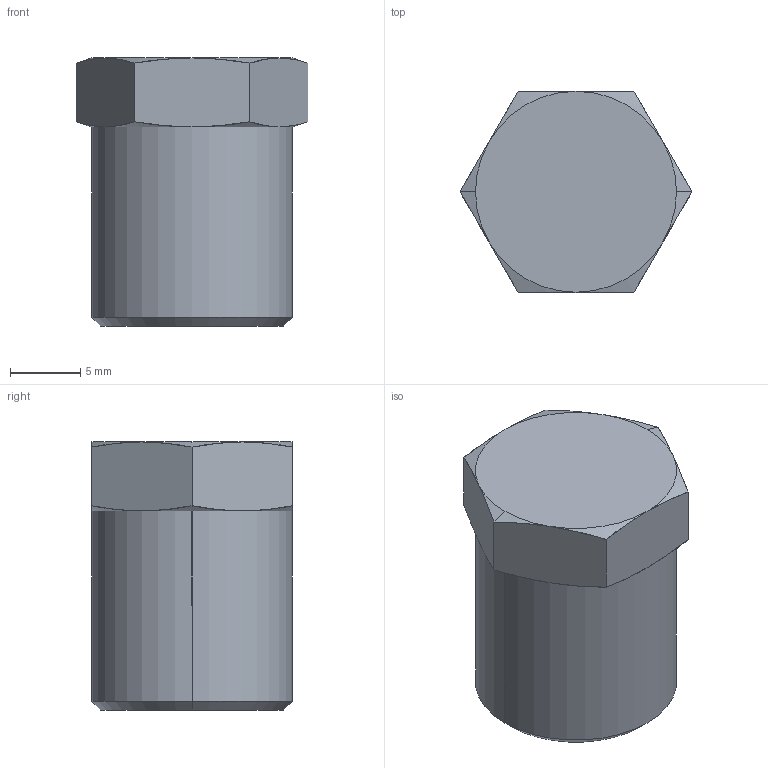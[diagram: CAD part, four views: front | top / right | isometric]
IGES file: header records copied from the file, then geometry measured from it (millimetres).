
Global section: file name: C:\Documents and Settings\Administrator\My Documents\PersonalProject\largeplug.igs; native system: AutoDesk Inventor R2.0 ; preprocessor: AutoDesk Inventor Iges Exporter R2.0; author: No Author specified; organization: No Organization specified; date: 20020115.183156; units: inch
Bounding box: 16.48 x 14.27 x 19.05 mm (x, y, z)
Surface area: 1483.8 mm2 (no closed solid volume)
Topology: 0 solids, 0 shells, 33 faces, 136 edges, 136 vertices
Faces by surface type: revolution 24, bspline 9
